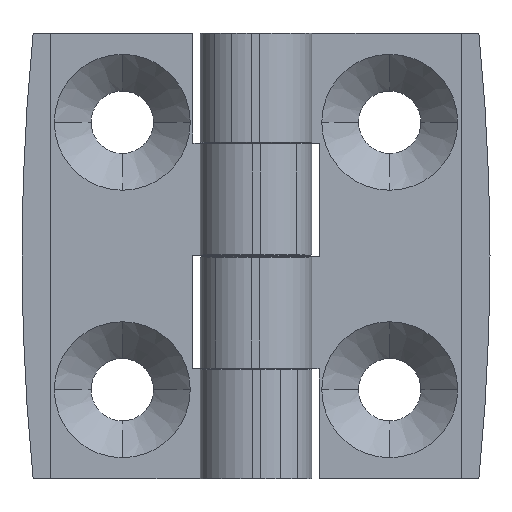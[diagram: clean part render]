
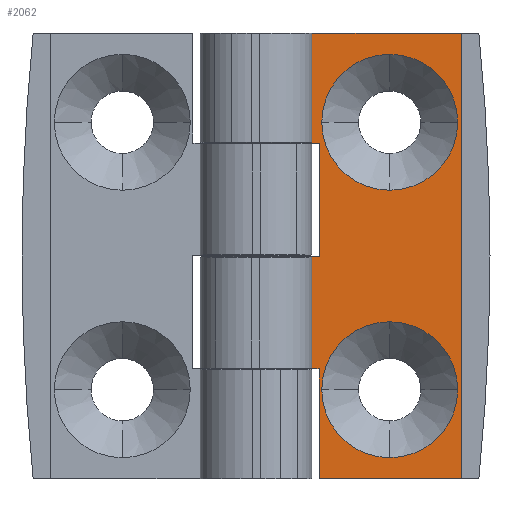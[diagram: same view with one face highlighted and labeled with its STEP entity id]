
A CAD part, front view. The second image highlights one B-rep face of the part: STEP entity #2062.
In plain terms, the highlighted planar face has unit normal (0, -1, 0) as drawn and (0, 0, 1) by its records, which use the part's own axes.
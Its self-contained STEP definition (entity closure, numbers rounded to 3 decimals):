
#154=CARTESIAN_POINT('',(18.0,27.15,-0.5));
#155=VERTEX_POINT('',#154);
#171=CARTESIAN_POINT('',(27.15,18.,-0.5));
#172=VERTEX_POINT('',#171);
#179=CARTESIAN_POINT('',(18.0,18.,-0.5));
#180=DIRECTION('',(0.0,0.0,-1.0));
#181=DIRECTION('',(-1.0,0.0,0.0));
#182=AXIS2_PLACEMENT_3D('',#179,#180,#181);
#183=CIRCLE('',#182,9.15);
#184=EDGE_CURVE('',#155,#172,#183,.T.);
#196=CARTESIAN_POINT('',(18.0,8.85,-0.5));
#197=VERTEX_POINT('',#196);
#213=CARTESIAN_POINT('',(8.85,18.0,-0.5));
#214=VERTEX_POINT('',#213);
#221=CARTESIAN_POINT('',(18.0,18.,-0.5));
#222=DIRECTION('',(0.0,0.0,-1.0));
#223=DIRECTION('',(1.0,0.0,0.0));
#224=AXIS2_PLACEMENT_3D('',#221,#222,#223);
#225=CIRCLE('',#224,9.15);
#226=EDGE_CURVE('',#197,#214,#225,.T.);
#238=CARTESIAN_POINT('',(18.0,-27.15,-0.5));
#239=VERTEX_POINT('',#238);
#255=CARTESIAN_POINT('',(8.85,-18.,-0.5));
#256=VERTEX_POINT('',#255);
#263=CARTESIAN_POINT('',(18.0,-18.,-0.5));
#264=DIRECTION('',(0.0,0.0,1.0));
#265=DIRECTION('',(-1.0,0.0,0.0));
#266=AXIS2_PLACEMENT_3D('',#263,#264,#265);
#267=CIRCLE('',#266,9.15);
#268=EDGE_CURVE('',#256,#239,#267,.T.);
#280=CARTESIAN_POINT('',(18.0,-8.85,-0.5));
#281=VERTEX_POINT('',#280);
#297=CARTESIAN_POINT('',(27.15,-18.,-0.5));
#298=VERTEX_POINT('',#297);
#305=CARTESIAN_POINT('',(18.0,-18.,-0.5));
#306=DIRECTION('',(0.0,0.0,1.0));
#307=DIRECTION('',(1.0,0.0,0.0));
#308=AXIS2_PLACEMENT_3D('',#305,#306,#307);
#309=CIRCLE('',#308,9.15);
#310=EDGE_CURVE('',#298,#281,#309,.T.);
#573=CARTESIAN_POINT('',(7.3,-15.2,-0.5));
#574=VERTEX_POINT('',#573);
#582=CARTESIAN_POINT('',(7.471,-15.129,-0.5));
#583=VERTEX_POINT('',#582);
#584=CARTESIAN_POINT('',(7.471,-15.129,-0.5));
#585=DIRECTION('',(-0.924,-0.383,0.0));
#586=VECTOR('',#585,0.185);
#587=LINE('',#584,#586);
#588=EDGE_CURVE('',#574,#583,#587,.F.);
#655=CARTESIAN_POINT('',(8.5,-15.2,-0.5));
#656=VERTEX_POINT('',#655);
#657=CARTESIAN_POINT('',(7.3,-15.2,-0.5));
#658=DIRECTION('',(1.0,0.0,0.0));
#659=VECTOR('',#658,1.2);
#660=LINE('',#657,#659);
#661=EDGE_CURVE('',#574,#656,#660,.T.);
#835=CARTESIAN_POINT('',(7.5,-15.1,-0.5));
#836=VERTEX_POINT('',#835);
#837=CARTESIAN_POINT('',(7.5,-15.1,-0.5));
#838=DIRECTION('',(-0.707,-0.707,0.0));
#839=VECTOR('',#838,0.041);
#840=LINE('',#837,#839);
#841=EDGE_CURVE('',#583,#836,#840,.F.);
#1127=CARTESIAN_POINT('',(7.4,15.2,-0.5));
#1128=VERTEX_POINT('',#1127);
#1129=CARTESIAN_POINT('',(7.5,15.3,-0.5));
#1130=VERTEX_POINT('',#1129);
#1131=CARTESIAN_POINT('',(7.5,15.3,-0.5));
#1132=DIRECTION('',(-0.707,-0.707,0.0));
#1133=VECTOR('',#1132,0.141);
#1134=LINE('',#1131,#1133);
#1135=EDGE_CURVE('',#1128,#1130,#1134,.F.);
#1283=CARTESIAN_POINT('',(7.5,30.0,-0.5));
#1284=VERTEX_POINT('',#1283);
#1285=CARTESIAN_POINT('',(7.5,15.3,-0.5));
#1286=DIRECTION('',(0.0,1.0,0.0));
#1287=VECTOR('',#1286,14.7);
#1288=LINE('',#1285,#1287);
#1289=EDGE_CURVE('',#1130,#1284,#1288,.T.);
#1307=CARTESIAN_POINT('',(8.5,15.2,-0.5));
#1308=VERTEX_POINT('',#1307);
#1309=CARTESIAN_POINT('',(7.4,15.2,-0.5));
#1310=DIRECTION('',(1.0,0.0,0.0));
#1311=VECTOR('',#1310,1.1);
#1312=LINE('',#1309,#1311);
#1313=EDGE_CURVE('',#1128,#1308,#1312,.T.);
#1496=CARTESIAN_POINT('',(7.5,-0.2,-0.5));
#1497=VERTEX_POINT('',#1496);
#1498=CARTESIAN_POINT('',(7.4,-0.1,-0.5));
#1499=VERTEX_POINT('',#1498);
#1500=CARTESIAN_POINT('',(7.4,-0.1,-0.5));
#1501=DIRECTION('',(0.707,-0.707,0.0));
#1502=VECTOR('',#1501,0.141);
#1503=LINE('',#1500,#1502);
#1504=EDGE_CURVE('',#1497,#1499,#1503,.F.);
#1563=CARTESIAN_POINT('',(7.5,-15.1,-0.5));
#1564=DIRECTION('',(0.0,1.0,0.0));
#1565=VECTOR('',#1564,14.9);
#1566=LINE('',#1563,#1565);
#1567=EDGE_CURVE('',#836,#1497,#1566,.T.);
#1622=CARTESIAN_POINT('',(8.5,-0.1,-0.5));
#1623=VERTEX_POINT('',#1622);
#1624=CARTESIAN_POINT('',(8.5,-0.1,-0.5));
#1625=DIRECTION('',(-1.0,0.0,0.0));
#1626=VECTOR('',#1625,1.1);
#1627=LINE('',#1624,#1626);
#1628=EDGE_CURVE('',#1623,#1499,#1627,.T.);
#1735=CARTESIAN_POINT('',(27.691,30.,-0.5));
#1736=VERTEX_POINT('',#1735);
#1737=CARTESIAN_POINT('',(7.5,30.0,-0.5));
#1738=DIRECTION('',(1.0,0.0,0.0));
#1739=VECTOR('',#1738,20.191);
#1740=LINE('',#1737,#1739);
#1741=EDGE_CURVE('',#1284,#1736,#1740,.T.);
#1837=CARTESIAN_POINT('',(27.691,-30.,-0.5));
#1838=VERTEX_POINT('',#1837);
#1845=CARTESIAN_POINT('',(8.5,-30.,-0.5));
#1846=VERTEX_POINT('',#1845);
#1847=CARTESIAN_POINT('',(8.5,-30.,-0.5));
#1848=DIRECTION('',(1.0,0.0,0.0));
#1849=VECTOR('',#1848,19.191);
#1850=LINE('',#1847,#1849);
#1851=EDGE_CURVE('',#1846,#1838,#1850,.T.);
#1875=CARTESIAN_POINT('',(8.5,-30.,-0.5));
#1876=DIRECTION('',(0.0,1.0,0.0));
#1877=VECTOR('',#1876,14.8);
#1878=LINE('',#1875,#1877);
#1879=EDGE_CURVE('',#1846,#656,#1878,.T.);
#1886=CARTESIAN_POINT('',(8.5,-0.1,-0.5));
#1887=DIRECTION('',(0.0,1.0,0.0));
#1888=VECTOR('',#1887,15.3);
#1889=LINE('',#1886,#1888);
#1890=EDGE_CURVE('',#1623,#1308,#1889,.T.);
#2000=CARTESIAN_POINT('',(6.49,-33.0,-0.5));
#2001=DIRECTION('',(0.0,0.0,1.0));
#2002=DIRECTION('',(1.0,0.0,0.0));
#2003=AXIS2_PLACEMENT_3D('',#2000,#2001,#2002);
#2004=PLANE('',#2003);
#2005=ORIENTED_EDGE('',*,*,#1851,.T.);
#2006=CARTESIAN_POINT('',(27.691,-30.,-0.5));
#2007=DIRECTION('',(0.0,1.0,0.0));
#2008=VECTOR('',#2007,60.0);
#2009=LINE('',#2006,#2008);
#2010=EDGE_CURVE('',#1838,#1736,#2009,.T.);
#2011=ORIENTED_EDGE('',*,*,#2010,.T.);
#2012=ORIENTED_EDGE('',*,*,#1741,.F.);
#2013=ORIENTED_EDGE('',*,*,#1289,.F.);
#2014=ORIENTED_EDGE('',*,*,#1135,.F.);
#2015=ORIENTED_EDGE('',*,*,#1313,.T.);
#2016=ORIENTED_EDGE('',*,*,#1890,.F.);
#2017=ORIENTED_EDGE('',*,*,#1628,.T.);
#2018=ORIENTED_EDGE('',*,*,#1504,.F.);
#2019=ORIENTED_EDGE('',*,*,#1567,.F.);
#2020=ORIENTED_EDGE('',*,*,#841,.F.);
#2021=ORIENTED_EDGE('',*,*,#588,.F.);
#2022=ORIENTED_EDGE('',*,*,#661,.T.);
#2023=ORIENTED_EDGE('',*,*,#1879,.F.);
#2024=EDGE_LOOP('',(#2005,#2011,#2012,#2013,#2014,#2015,#2016,#2017,#2018,#2019,#2020,#2021,#2022,#2023));
#2025=FACE_OUTER_BOUND('',#2024,.T.);
#2026=ORIENTED_EDGE('',*,*,#310,.F.);
#2027=CARTESIAN_POINT('',(18.0,-18.,-0.5));
#2028=DIRECTION('',(0.0,0.0,1.0));
#2029=DIRECTION('',(-1.0,0.0,0.0));
#2030=AXIS2_PLACEMENT_3D('',#2027,#2028,#2029);
#2031=CIRCLE('',#2030,9.15);
#2032=EDGE_CURVE('',#239,#298,#2031,.T.);
#2033=ORIENTED_EDGE('',*,*,#2032,.F.);
#2034=ORIENTED_EDGE('',*,*,#268,.F.);
#2035=CARTESIAN_POINT('',(18.0,-18.,-0.5));
#2036=DIRECTION('',(0.0,0.0,1.0));
#2037=DIRECTION('',(1.0,0.0,0.0));
#2038=AXIS2_PLACEMENT_3D('',#2035,#2036,#2037);
#2039=CIRCLE('',#2038,9.15);
#2040=EDGE_CURVE('',#281,#256,#2039,.T.);
#2041=ORIENTED_EDGE('',*,*,#2040,.F.);
#2042=EDGE_LOOP('',(#2026,#2033,#2034,#2041));
#2043=FACE_BOUND('',#2042,.T.);
#2044=CARTESIAN_POINT('',(18.0,18.,-0.5));
#2045=DIRECTION('',(0.0,0.0,-1.0));
#2046=DIRECTION('',(1.0,0.0,0.0));
#2047=AXIS2_PLACEMENT_3D('',#2044,#2045,#2046);
#2048=CIRCLE('',#2047,9.15);
#2049=EDGE_CURVE('',#172,#197,#2048,.T.);
#2050=ORIENTED_EDGE('',*,*,#2049,.T.);
#2051=ORIENTED_EDGE('',*,*,#226,.T.);
#2052=CARTESIAN_POINT('',(18.0,18.,-0.5));
#2053=DIRECTION('',(0.0,0.0,-1.0));
#2054=DIRECTION('',(-1.0,0.0,0.0));
#2055=AXIS2_PLACEMENT_3D('',#2052,#2053,#2054);
#2056=CIRCLE('',#2055,9.15);
#2057=EDGE_CURVE('',#214,#155,#2056,.T.);
#2058=ORIENTED_EDGE('',*,*,#2057,.T.);
#2059=ORIENTED_EDGE('',*,*,#184,.T.);
#2060=EDGE_LOOP('',(#2050,#2051,#2058,#2059));
#2061=FACE_BOUND('',#2060,.T.);
#2062=ADVANCED_FACE('',(#2025,#2043,#2061),#2004,.T.);
